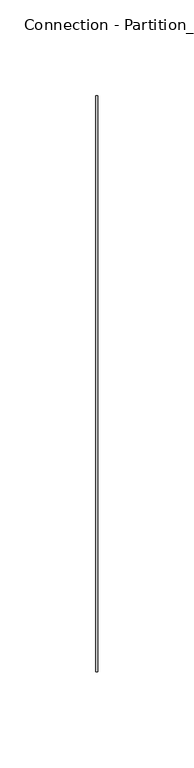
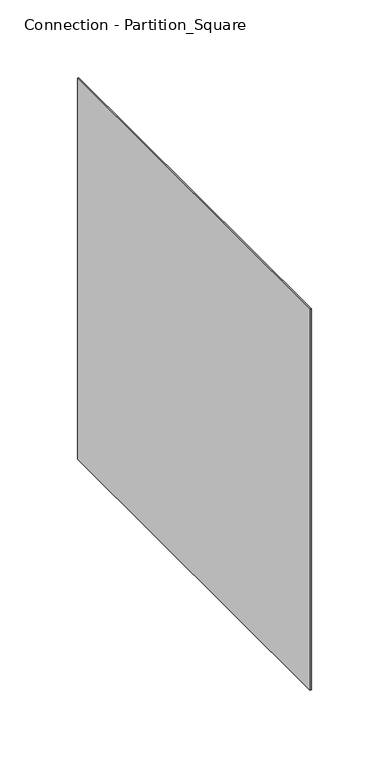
"""IFC4 building model written with IfcOpenShell, lengths in millimetres: duct fitting geometry, Prihoda Square Duct_Connection - Partition of Loop : Connection - Partition_Square."""

import ifcopenshell
import ifcopenshell.guid

model = None  # the IFC model being written
_history = None  # IfcOwnerHistory: only IFC2X3 demands one
_inside = {}  # id of a spatial element -> (the spatial element, [elements in it])
_under = {}  # id of a project, library or spatial element -> (it, [spatial elements below it])
_declared = {}  # id of a project -> (the project, [libraries it declares])
_typed = {}  # id of a type object -> (the type object, [elements of that type])
_made_of = {}  # id of a material, layer set ... -> (it, [elements and type objects made of it])


def new_model(schema):
    """Start an empty IFC model of exactly this schema.

    Asked for "IFC4X3", IfcOpenShell would pick the latest addendum, in which some entities
    have other attributes; the version numbers below select the first issue.
    IFC2X3 requires an IfcOwnerHistory on every rooted entity: one is made here for all.
    """
    global model, _history
    if schema == "IFC4X3":
        model = ifcopenshell.file(schema_version=(4, 3, 0, 0))
    else:
        model = ifcopenshell.file(schema=schema)
    _inside.clear()
    _under.clear()
    _declared.clear()
    _typed.clear()
    _made_of.clear()
    _history = None
    if model.schema == "IFC2X3":
        org = make("IfcOrganization", Name="unknown")
        user = make(
            "IfcPersonAndOrganization",
            ThePerson=make("IfcPerson", FamilyName="unknown"),
            TheOrganization=org,
        )
        app = make(
            "IfcApplication",
            ApplicationDeveloper=org,
            Version="unknown",
            ApplicationFullName="unknown",
            ApplicationIdentifier="unknown",
        )
        _history = make(
            "IfcOwnerHistory",
            OwningUser=user,
            OwningApplication=app,
            ChangeAction="ADDED",
            CreationDate=0,
        )
    return model


def make(cls, **values):
    """One entity of the class cls with the attributes given. An attribute that is None is left unset."""
    return model.create_entity(
        cls, **{name: value for name, value in values.items() if value is not None}
    )


def rooted(cls, **values):
    """An entity with a GlobalId (a new one), such as an element, a storey or a relation."""
    return make(cls, GlobalId=ifcopenshell.guid.new(), OwnerHistory=_history, **values)


def si_unit(unit_type, name, prefix=None):
    """IfcSIUnit, for example si_unit("LENGTHUNIT", "METRE", prefix="MILLI")."""
    return make("IfcSIUnit", UnitType=unit_type, Prefix=prefix, Name=name)


def assignment(units):
    """IfcUnitAssignment: the units of a project."""
    return None if units is None else make("IfcUnitAssignment", Units=units)


def point(xyz):
    """IfcCartesianPoint."""
    return None if xyz is None else make("IfcCartesianPoint", Coordinates=xyz)


def direction(xyz):
    """IfcDirection."""
    return None if xyz is None else make("IfcDirection", DirectionRatios=xyz)


def frame(location, z_axis=None, x_axis=None):
    """IfcAxis2Placement3D, a coordinate frame: its origin and axes. An axis left out is left unset."""
    return make(
        "IfcAxis2Placement3D",
        Location=point(location),
        Axis=direction(z_axis),
        RefDirection=direction(x_axis),
    )


def origin():
    """The frame at (0, 0, 0) with its axes left unset."""
    return frame((0.0, 0.0, 0.0))


def place(relative_to, where):
    """IfcLocalPlacement: puts the frame where relative to a parent placement (None: the world)."""
    return make(
        "IfcLocalPlacement", PlacementRelTo=relative_to, RelativePlacement=where
    )


def context(
    kind, dimensions, precision=None, world=None, true_north=None, identifier=None
):
    """IfcGeometricRepresentationContext, for example the 3D "Model" context."""
    return make(
        "IfcGeometricRepresentationContext",
        ContextIdentifier=identifier,
        ContextType=kind,
        CoordinateSpaceDimension=dimensions,
        Precision=precision,
        WorldCoordinateSystem=world,
        TrueNorth=true_north,
    )


def project(units=None, contexts=None):
    """IfcProject with its units and contexts."""
    return rooted(
        "IfcProject",
        Name="project",
        RepresentationContexts=contexts,
        UnitsInContext=assignment(units),
    )


def spatial(cls, under=None, at=None, **own):
    """A site, building, storey or space (cls), placed at a placement, below another one or the project."""
    s = rooted(cls, ObjectPlacement=at, **own)
    if under is not None:
        _under.setdefault(under.id(), (under, []))[1].append(s)
    return s


def polyline(points):
    """IfcPolyline through the points."""
    return make("IfcPolyline", Points=[point(p) for p in points])


def outline(outer, holes=None, kind="AREA"):
    """IfcArbitraryClosedProfileDef: a profile drawn as a closed curve; with holes, ...WithVoids."""
    if holes is None:
        return make("IfcArbitraryClosedProfileDef", ProfileType=kind, OuterCurve=outer)
    return make(
        "IfcArbitraryProfileDefWithVoids",
        ProfileType=kind,
        OuterCurve=outer,
        InnerCurves=holes,
    )


def extrude(swept, where, along, depth):
    """IfcExtrudedAreaSolid: the profile swept, set in the frame where, extruded along a direction by depth."""
    return make(
        "IfcExtrudedAreaSolid",
        SweptArea=swept,
        Position=where,
        ExtrudedDirection=direction(along),
        Depth=depth,
    )


def shape(context_of_items, identifier, shape_type, items):
    """IfcShapeRepresentation: the items that make up one representation, for example the "Body"."""
    return make(
        "IfcShapeRepresentation",
        ContextOfItems=context_of_items,
        RepresentationIdentifier=identifier,
        RepresentationType=shape_type,
        Items=items,
    )


def source(mapping_origin, context_of_items, identifier, shape_type, items):
    """IfcRepresentationMap: a shape defined once, which mapped items show again and again."""
    return make(
        "IfcRepresentationMap",
        MappingOrigin=mapping_origin,
        MappedRepresentation=shape(context_of_items, identifier, shape_type, items),
    )


def transform(
    local_origin,
    x_axis=None,
    y_axis=None,
    z_axis=None,
    scale=None,
    scale2=None,
    scale3=None,
    uniform=True,
):
    """IfcCartesianTransformationOperator3D, or its non-uniform kind. x_axis, y_axis, z_axis: its Axis1, 2, 3."""
    if uniform:
        return make(
            "IfcCartesianTransformationOperator3D",
            Axis1=direction(x_axis),
            Axis2=direction(y_axis),
            LocalOrigin=point(local_origin),
            Scale=scale,
            Axis3=direction(z_axis),
        )
    return make(
        "IfcCartesianTransformationOperator3DnonUniform",
        Axis1=direction(x_axis),
        Axis2=direction(y_axis),
        LocalOrigin=point(local_origin),
        Scale=scale,
        Axis3=direction(z_axis),
        Scale2=scale2,
        Scale3=scale3,
    )


def mapped(mapping_source, mapping_target):
    """IfcMappedItem: shows the shape of a source again, moved by a transform."""
    return make(
        "IfcMappedItem", MappingSource=mapping_source, MappingTarget=mapping_target
    )


def made_of(thing, what):
    """Note that an element or type object is made of a material, layer set ...; save() writes the relation."""
    if what is not None:
        _made_of.setdefault(what.id(), (what, []))[1].append(thing)
    return thing


def element(
    cls,
    number,
    at=None,
    inside=None,
    cuts=None,
    type_object=None,
    material=None,
    context=None,
    identifier="Body",
    shape_type=None,
    held_by="IfcProductDefinitionShape",
    body=None,
    shapes=None,
    **own,
):
    """One element of the class cls, such as IfcWall. Its Tag is "e" and its number.

    at: its placement. inside: the storey or other place that contains it. cuts: it is an
    opening in that element (IfcRelVoidsElement). A single representation is given by context,
    identifier, shape_type and body (its items); several are given by shapes. held_by: the class
    of the entity that holds the representations. save() writes the other relations.
    """
    e = rooted(cls, Tag="e%d" % number, ObjectPlacement=at, **own)
    if body is not None:
        shapes = [shape(context, identifier, shape_type, body)]
    if shapes is not None:
        e.Representation = make(held_by, Representations=shapes)
    if inside is not None:
        _inside.setdefault(inside.id(), (inside, []))[1].append(e)
    if cuts is not None:
        rooted(
            "IfcRelVoidsElement", RelatingBuildingElement=cuts, RelatedOpeningElement=e
        )
    if type_object is not None:
        _typed.setdefault(type_object.id(), (type_object, []))[1].append(e)
    return made_of(e, material)


def aggregate(whole, parts):
    """IfcRelAggregates: a whole, such as a stair, and the parts it consists of."""
    return rooted("IfcRelAggregates", RelatingObject=whole, RelatedObjects=parts)


def save(model, path):
    """Write the relations noted so far, then the file.

    IfcRelAggregates (storeys below a building ...), IfcRelContainedInSpatialStructure (elements
    in a storey), IfcRelDefinesByType, IfcRelAssociatesMaterial and IfcRelDeclares: one each for
    every whole, place, type object, material and project.
    """
    for whole, parts in _under.values():
        aggregate(whole, parts)
    for where, things in _inside.values():
        rooted(
            "IfcRelContainedInSpatialStructure",
            RelatedElements=things,
            RelatingStructure=where,
        )
    for kind, things in _typed.values():
        rooted("IfcRelDefinesByType", RelatedObjects=things, RelatingType=kind)
    for what, things in _made_of.values():
        rooted("IfcRelAssociatesMaterial", RelatedObjects=things, RelatingMaterial=what)
    for by, libraries in _declared.values():
        rooted("IfcRelDeclares", RelatingContext=by, RelatedDefinitions=libraries)
    model.write(path)


def connection_partition_square_086a8c5e(model_context):
    return source(origin(), model_context, "Body", "SweptSolid", [
        extrude(outline(polyline([(1.0, 150.0), (1.0, -150.0), (0.0, -150.0), (0.0, 150.0), (1.0, 150.0)])), frame((0.0, 0.0, -150.0), z_axis=(0.0, 0.0, 1.0), x_axis=(1.0, 0.0, 0.0)), (0.0, 0.0, 1.0), 300.0),
    ])


if __name__ == "__main__":
    model = new_model("IFC4")
    model_context = context("Model", 3, world=origin())
    ifc_project = project(units=[si_unit("LENGTHUNIT", "METRE", prefix="MILLI")], contexts=[model_context])
    site = spatial("IfcSite", under=ifc_project)
    building = spatial("IfcBuilding", under=site)
    placement = place(None, origin())
    connection_partition_square_shape = connection_partition_square_086a8c5e(model_context)
    element("IfcDuctFitting", 1, ObjectType="Prihoda Square Duct_Connection - Partition of Loop : Connection - Partition_Square", at=placement, inside=building, context=model_context, shape_type="MappedRepresentation", body=[
        mapped(connection_partition_square_shape, transform((0.0, 0.0, 0.0), x_axis=(1.0, 0.0, 0.0), y_axis=(0.0, 1.0, 0.0), z_axis=(0.0, 0.0, 1.0))),
    ])
    save(model, "model.ifc")
